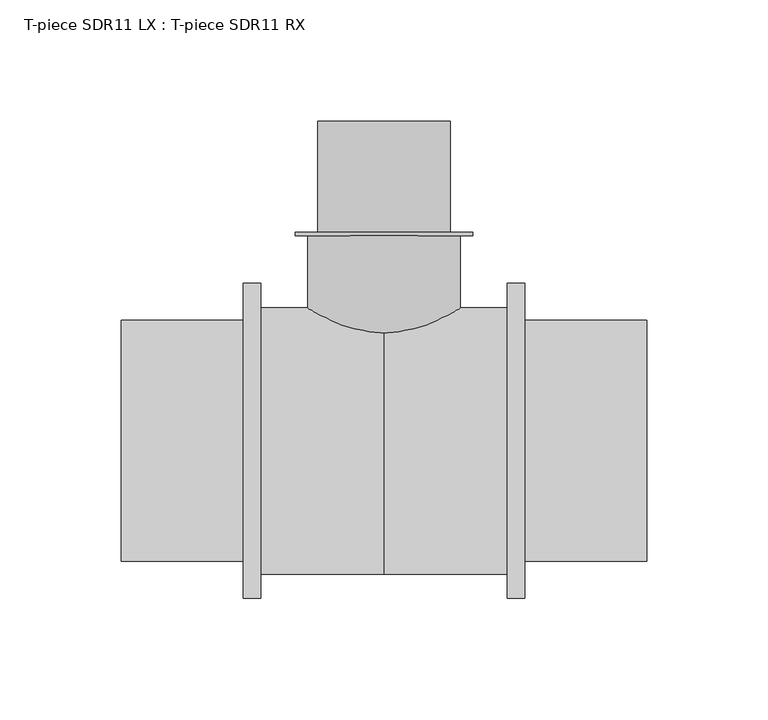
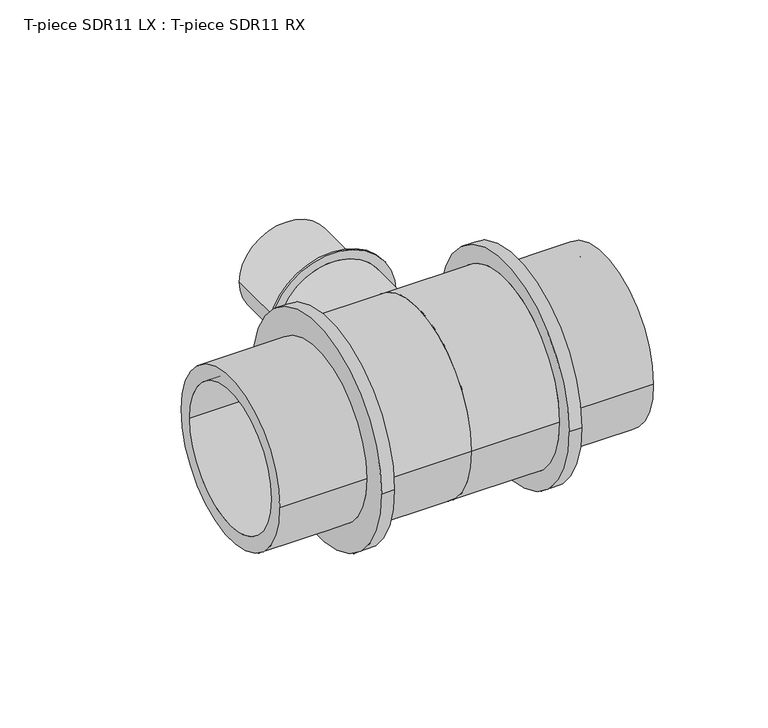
"""IFC4 building model written with IfcOpenShell, lengths in millimetres: pipe fitting geometry, T-piece SDR11 LX : T-piece SDR11 RX."""

from ifc_helpers import new_model, si_unit, point, frame, origin, place, context, project, spatial, polyline, circle_curve, ellipse_curve, trimmed, source, transform, mapped, element, save
from ifc_brep_helpers import plane_surface, cylinder_surface, revolved_surface, advanced_brep


def t_piece_sdr11_lx_t_piece_sdr11_rx_f182f6ed(model_context):
    return source(origin(), model_context, "Body", "AdvancedBrep", [
        advanced_brep(
        [(31.5, 1.6732662, 0.0), (-31.5, 1.6732662, 0.0), (-31.5, 84.8, 0.0), (31.5, 84.8, 0.0), (22.0, 132.0, 0.0), (-22.0, 132.0, 0.0), (-22.0, 0.0, 0.0), (22.0, 0.0, 0.0), (27.3, 86.1, 0.0), (-27.3, 86.1, 0.0), (-27.3, 132.0, 0.0), (27.3, 132.0, 0.0), (36.7, 84.8, 0.0), (-36.7, 84.8, 0.0), (-36.7, 86.1, 0.0), (36.7, 86.1, 0.0)],
        [
            (0, 1, circle_curve(frame((0.0, 1.6732662, 0.0), z_axis=(0.0, 1.0, 0.0), x_axis=(-1.0, 0.0, 0.0)), 31.5)),
            (1, 2),
            (2, 3, circle_curve(frame((0.0, 84.8, 0.0), z_axis=(0.0, -1.0, 0.0), x_axis=(-1.0, 0.0, 0.0)), 31.5)),
            (3, 0),
            (4, 5, circle_curve(frame((0.0, 132.0, 0.0), z_axis=(0.0, 1.0, 0.0), x_axis=(-1.0, 0.0, 0.0)), 22.0)),
            (5, 6),
            (6, 7, circle_curve(frame((0.0, 0.0, 0.0), z_axis=(0.0, -1.0, 0.0), x_axis=(-1.0, 0.0, 0.0)), 22.0)),
            (7, 4),
            (8, 9, circle_curve(frame((0.0, 86.1, 0.0), z_axis=(0.0, 1.0, 0.0), x_axis=(-1.0, 0.0, 0.0)), 27.3)),
            (9, 10),
            (10, 11, circle_curve(frame((0.0, 132.0, 0.0), z_axis=(0.0, -1.0, 0.0), x_axis=(-1.0, 0.0, 0.0)), 27.3)),
            (11, 8),
            (12, 13, circle_curve(frame((0.0, 84.8, 0.0), z_axis=(0.0, 1.0, 0.0), x_axis=(-1.0, 0.0, 0.0)), 36.7)),
            (13, 14),
            (14, 15, circle_curve(frame((0.0, 86.1, 0.0), z_axis=(0.0, -1.0, 0.0), x_axis=(-1.0, 0.0, 0.0)), 36.7)),
            (15, 12),
            (12, 13, circle_curve(frame((0.0, 84.8, 0.0), z_axis=(0.0, -1.0, 0.0), x_axis=(1.0, 0.0, 0.0)), 36.7)),
            (2, 3, circle_curve(frame((0.0, 84.8, 0.0), z_axis=(0.0, 1.0, 0.0), x_axis=(1.0, 0.0, 0.0)), 31.5)),
            (1, 0, circle_curve(frame((0.0, 1.6732662, 0.0), z_axis=(0.0, 1.0, 0.0), x_axis=(1.0, 0.0, 0.0)), 31.5)),
            (5, 4, circle_curve(frame((0.0, 132.0, 0.0), z_axis=(0.0, 1.0, 0.0), x_axis=(1.0, 0.0, 0.0)), 22.0)),
            (7, 6, circle_curve(frame((0.0, 0.0, 0.0), z_axis=(0.0, -1.0, 0.0), x_axis=(1.0, 0.0, 0.0)), 22.0)),
            (10, 11, circle_curve(frame((0.0, 132.0, 0.0), z_axis=(0.0, 1.0, 0.0), x_axis=(1.0, 0.0, 0.0)), 27.3)),
            (9, 8, circle_curve(frame((0.0, 86.1, 0.0), z_axis=(0.0, 1.0, 0.0), x_axis=(1.0, 0.0, 0.0)), 27.3)),
            (14, 15, circle_curve(frame((0.0, 86.1, 0.0), z_axis=(0.0, 1.0, 0.0), x_axis=(1.0, 0.0, 0.0)), 36.7)),
            (6, 1, circle_curve(frame((-17.2462802, 54.7941799, 0.0), z_axis=(0.0, 0.0, -1.0), x_axis=(0.0, -1.0, 0.0)), 55.0)),
            (0, 7, circle_curve(frame((17.2462802, 54.7941799, 0.0), z_axis=(0.0, 0.0, -1.0), x_axis=(0.0, -1.0, 0.0)), 55.0)),
        ],
        [
            cylinder_surface(frame((0.0, 0.0, 0.0), z_axis=(0.0, -1.0, 0.0), x_axis=(-1.0, 0.0, 0.0)), 31.5),
            revolved_surface(polyline([(-22.0, 0.0, 0.0), (-22.0, 132.0, 0.0)]), (0.0, 0.0, 0.0), (0.0, -1.0, 0.0)),
            cylinder_surface(frame((0.0, 0.0, 0.0), z_axis=(0.0, -1.0, 0.0), x_axis=(-1.0, 0.0, 0.0)), 27.3),
            cylinder_surface(frame((0.0, 0.0, 0.0), z_axis=(0.0, -1.0, 0.0), x_axis=(-1.0, 0.0, 0.0)), 36.7),
            plane_surface(frame((0.0, 84.8, 0.0), z_axis=(0.0, -1.0, 0.0), x_axis=(1.0, 0.0, 0.0))),
            cylinder_surface(frame((0.0, 0.0, 0.0), z_axis=(0.0, -1.0, 0.0), x_axis=(1.0, 0.0, 0.0)), 31.5),
            revolved_surface(polyline([(22.0, 0.0, 0.0), (22.0, 132.0, 0.0)]), (0.0, 0.0, 0.0), (0.0, -1.0, 0.0)),
            plane_surface(frame((0.0, 132.0, 0.0), z_axis=(0.0, 1.0, 0.0), x_axis=(1.0, 0.0, 0.0))),
            cylinder_surface(frame((0.0, 0.0, 0.0), z_axis=(0.0, -1.0, 0.0), x_axis=(1.0, 0.0, 0.0)), 27.3),
            plane_surface(frame((0.0, 86.1, 0.0), z_axis=(0.0, 1.0, 0.0), x_axis=(1.0, 0.0, 0.0))),
            cylinder_surface(frame((0.0, 0.0, 0.0), z_axis=(0.0, -1.0, 0.0), x_axis=(1.0, 0.0, 0.0)), 36.7),
            revolved_surface(trimmed(ellipse_curve(frame((-17.2462802, 54.7941799, 0.0), z_axis=(0.0, 0.0, 1.0), x_axis=(0.0, -1.0, 0.0)), 55.0, 55.0), [point((-31.5, 1.6732662, 0.0))], [point((-22.0, 0.0, 0.0))], True, "CARTESIAN"), (0.0, 0.0, 0.0), (0.0, -1.0, 0.0)),
            revolved_surface(trimmed(ellipse_curve(frame((17.2462802, 54.7941799, 0.0), z_axis=(0.0, 0.0, -1.0), x_axis=(0.0, -1.0, 0.0)), 55.0, 55.0), [point((31.5, 1.6732662, 0.0))], [point((22.0, 0.0, 0.0))], True, "CARTESIAN"), (0.0, 0.0, 0.0), (0.0, -1.0, 0.0)),
        ],
        [
            (0, [[1, 2, 3, 4]]),
            (1, [[5, 6, 7, 8]]),
            (2, [[9, 10, 11, 12]]),
            (3, [[13, 14, 15, 16]]),
            (4, [[17, -13], [18, -3]]),
            (5, [[19, -4, -18, -2]]),
            (6, [[20, -8, 21, -6]]),
            (7, [[22, -11], [-20, -5]]),
            (8, [[23, -12, -22, -10]]),
            (9, [[24, -15], [-23, -9]]),
            (10, [[-17, -16, -24, -14]]),
            (11, [[-7, 25, -1, 26]]),
            (12, [[-21, -26, -19, -25]]),
        ],
    ),
        advanced_brep(
        [(50.8, 55.0, 0.0), (50.8, -55.0, 0.0), (0.0, -55.0, 0.0), (0.0, 55.0, 0.0), (0.0, 41.1, 0.0), (0.0, -41.1, 0.0), (108.5, -41.1, 0.0), (108.5, 41.1, 0.0), (108.5, 49.75, 0.0), (108.5, -49.75, 0.0), (58.1, -49.75, 0.0), (58.1, 49.75, 0.0), (58.1, 65.0, 0.0), (58.1, -65.0, 0.0), (50.8, -65.0, 0.0), (50.8, 65.0, 0.0)],
        [
            (0, 1, circle_curve(frame((50.8, 0.0, 0.0), z_axis=(-1.0, 0.0, 0.0), x_axis=(0.0, -1.0, 0.0)), 55.0)),
            (1, 2),
            (2, 3, circle_curve(frame((0.0, 0.0, 0.0), z_axis=(1.0, 0.0, 0.0), x_axis=(0.0, -1.0, 0.0)), 55.0)),
            (3, 0),
            (4, 5, circle_curve(frame((0.0, 0.0, 0.0), z_axis=(-1.0, 0.0, 0.0), x_axis=(0.0, -1.0, 0.0)), 41.1)),
            (5, 6),
            (6, 7, circle_curve(frame((108.5, 0.0, 0.0), z_axis=(1.0, 0.0, 0.0), x_axis=(0.0, -1.0, 0.0)), 41.1)),
            (7, 4),
            (8, 9, circle_curve(frame((108.5, 0.0, 0.0), z_axis=(-1.0, 0.0, 0.0), x_axis=(0.0, -1.0, 0.0)), 49.75)),
            (9, 10),
            (10, 11, circle_curve(frame((58.1, 0.0, 0.0), z_axis=(1.0, 0.0, 0.0), x_axis=(0.0, -1.0, 0.0)), 49.75)),
            (11, 8),
            (12, 13, circle_curve(frame((58.1, 0.0, 0.0), z_axis=(-1.0, 0.0, 0.0), x_axis=(0.0, -1.0, 0.0)), 65.0)),
            (13, 14),
            (14, 15, circle_curve(frame((50.8, 0.0, 0.0), z_axis=(1.0, 0.0, 0.0), x_axis=(0.0, -1.0, 0.0)), 65.0)),
            (15, 12),
            (14, 15, circle_curve(frame((50.8, 0.0, 0.0), z_axis=(-1.0, 0.0, 0.0), x_axis=(0.0, 1.0, 0.0)), 65.0)),
            (0, 1, circle_curve(frame((50.8, 0.0, 0.0), z_axis=(1.0, 0.0, 0.0), x_axis=(0.0, 1.0, 0.0)), 55.0)),
            (3, 2, circle_curve(frame((0.0, 0.0, 0.0), z_axis=(1.0, 0.0, 0.0), x_axis=(0.0, 1.0, 0.0)), 55.0)),
            (4, 5, circle_curve(frame((0.0, 0.0, 0.0), z_axis=(1.0, 0.0, 0.0), x_axis=(0.0, 1.0, 0.0)), 41.1)),
            (7, 6, circle_curve(frame((108.5, 0.0, 0.0), z_axis=(1.0, 0.0, 0.0), x_axis=(0.0, 1.0, 0.0)), 41.1)),
            (8, 9, circle_curve(frame((108.5, 0.0, 0.0), z_axis=(1.0, 0.0, 0.0), x_axis=(0.0, 1.0, 0.0)), 49.75)),
            (11, 10, circle_curve(frame((58.1, 0.0, 0.0), z_axis=(1.0, 0.0, 0.0), x_axis=(0.0, 1.0, 0.0)), 49.75)),
            (12, 13, circle_curve(frame((58.1, 0.0, 0.0), z_axis=(1.0, 0.0, 0.0), x_axis=(0.0, 1.0, 0.0)), 65.0)),
        ],
        [
            cylinder_surface(frame((0.0, 0.0, 0.0), z_axis=(1.0, 0.0, 0.0), x_axis=(0.0, -1.0, 0.0)), 55.0),
            revolved_surface(polyline([(108.5, -41.1, 0.0), (0.0, -41.1, 0.0)]), (0.0, 0.0, 0.0), (1.0, 0.0, 0.0)),
            cylinder_surface(frame((0.0, 0.0, 0.0), z_axis=(1.0, 0.0, 0.0), x_axis=(0.0, -1.0, 0.0)), 49.75),
            cylinder_surface(frame((0.0, 0.0, 0.0), z_axis=(1.0, 0.0, 0.0), x_axis=(0.0, -1.0, 0.0)), 65.0),
            plane_surface(frame((50.8, 0.0, 0.0), z_axis=(-1.0, 0.0, 0.0), x_axis=(0.0, 1.0, 0.0))),
            cylinder_surface(frame((0.0, 0.0, 0.0), z_axis=(1.0, 0.0, 0.0), x_axis=(0.0, 1.0, 0.0)), 55.0),
            plane_surface(frame((0.0, 0.0, 0.0), z_axis=(-1.0, 0.0, 0.0), x_axis=(0.0, 1.0, 0.0))),
            revolved_surface(polyline([(108.5, 41.1, 0.0), (0.0, 41.1, 0.0)]), (0.0, 0.0, 0.0), (1.0, 0.0, 0.0)),
            plane_surface(frame((108.5, 0.0, 0.0), z_axis=(1.0, 0.0, 0.0), x_axis=(0.0, 1.0, 0.0))),
            cylinder_surface(frame((0.0, 0.0, 0.0), z_axis=(1.0, 0.0, 0.0), x_axis=(0.0, 1.0, 0.0)), 49.75),
            plane_surface(frame((58.1, 0.0, 0.0), z_axis=(1.0, 0.0, 0.0), x_axis=(0.0, 1.0, 0.0))),
            cylinder_surface(frame((0.0, 0.0, 0.0), z_axis=(1.0, 0.0, 0.0), x_axis=(0.0, 1.0, 0.0)), 65.0),
        ],
        [
            (0, [[1, 2, 3, 4]]),
            (1, [[5, 6, 7, 8]]),
            (2, [[9, 10, 11, 12]]),
            (3, [[13, 14, 15, 16]]),
            (4, [[17, -15], [18, -1]]),
            (5, [[-18, -4, 19, -2]]),
            (6, [[-19, -3], [20, -5]]),
            (7, [[-20, -8, 21, -6]]),
            (8, [[22, -9], [-21, -7]]),
            (9, [[-22, -12, 23, -10]]),
            (10, [[24, -13], [-23, -11]]),
            (11, [[-24, -16, -17, -14]]),
        ],
    ),
        advanced_brep(
        [(0.0, 55.0, 0.0), (0.0, -55.0, 0.0), (-50.8, -55.0, 0.0), (-50.8, 55.0, 0.0), (-108.5, 41.1, 0.0), (-108.5, -41.1, 0.0), (0.0, -41.1, 0.0), (0.0, 41.1, 0.0), (-58.1, 49.75, 0.0), (-58.1, -49.75, 0.0), (-108.5, -49.75, 0.0), (-108.5, 49.75, 0.0), (-50.8, 65.0, 0.0), (-50.8, -65.0, 0.0), (-58.1, -65.0, 0.0), (-58.1, 65.0, 0.0)],
        [
            (0, 1, circle_curve(frame((0.0, 0.0, 0.0), z_axis=(-1.0, 0.0, 0.0), x_axis=(0.0, -1.0, 0.0)), 55.0)),
            (1, 2),
            (2, 3, circle_curve(frame((-50.8, 0.0, 0.0), z_axis=(1.0, 0.0, 0.0), x_axis=(0.0, -1.0, 0.0)), 55.0)),
            (3, 0),
            (4, 5, circle_curve(frame((-108.5, 0.0, 0.0), z_axis=(-1.0, 0.0, 0.0), x_axis=(0.0, -1.0, 0.0)), 41.1)),
            (5, 6),
            (6, 7, circle_curve(frame((0.0, 0.0, 0.0), z_axis=(1.0, 0.0, 0.0), x_axis=(0.0, -1.0, 0.0)), 41.1)),
            (7, 4),
            (8, 9, circle_curve(frame((-58.1, 0.0, 0.0), z_axis=(-1.0, 0.0, 0.0), x_axis=(0.0, -1.0, 0.0)), 49.75)),
            (9, 10),
            (10, 11, circle_curve(frame((-108.5, 0.0, 0.0), z_axis=(1.0, 0.0, 0.0), x_axis=(0.0, -1.0, 0.0)), 49.75)),
            (11, 8),
            (12, 13, circle_curve(frame((-50.8, 0.0, 0.0), z_axis=(-1.0, 0.0, 0.0), x_axis=(0.0, -1.0, 0.0)), 65.0)),
            (13, 14),
            (14, 15, circle_curve(frame((-58.1, 0.0, 0.0), z_axis=(1.0, 0.0, 0.0), x_axis=(0.0, -1.0, 0.0)), 65.0)),
            (15, 12),
            (12, 13, circle_curve(frame((-50.8, 0.0, 0.0), z_axis=(1.0, 0.0, 0.0), x_axis=(0.0, 1.0, 0.0)), 65.0)),
            (2, 3, circle_curve(frame((-50.8, 0.0, 0.0), z_axis=(-1.0, 0.0, 0.0), x_axis=(0.0, 1.0, 0.0)), 55.0)),
            (1, 0, circle_curve(frame((0.0, 0.0, 0.0), z_axis=(-1.0, 0.0, 0.0), x_axis=(0.0, 1.0, 0.0)), 55.0)),
            (6, 7, circle_curve(frame((0.0, 0.0, 0.0), z_axis=(-1.0, 0.0, 0.0), x_axis=(0.0, 1.0, 0.0)), 41.1)),
            (5, 4, circle_curve(frame((-108.5, 0.0, 0.0), z_axis=(-1.0, 0.0, 0.0), x_axis=(0.0, 1.0, 0.0)), 41.1)),
            (10, 11, circle_curve(frame((-108.5, 0.0, 0.0), z_axis=(-1.0, 0.0, 0.0), x_axis=(0.0, 1.0, 0.0)), 49.75)),
            (9, 8, circle_curve(frame((-58.1, 0.0, 0.0), z_axis=(-1.0, 0.0, 0.0), x_axis=(0.0, 1.0, 0.0)), 49.75)),
            (14, 15, circle_curve(frame((-58.1, 0.0, 0.0), z_axis=(-1.0, 0.0, 0.0), x_axis=(0.0, 1.0, 0.0)), 65.0)),
        ],
        [
            cylinder_surface(frame((0.0, 0.0, 0.0), z_axis=(1.0, 0.0, 0.0), x_axis=(0.0, -1.0, 0.0)), 55.0),
            revolved_surface(polyline([(0.0, -41.1, 0.0), (-108.5, -41.1, 0.0)]), (0.0, 0.0, 0.0), (1.0, 0.0, 0.0)),
            cylinder_surface(frame((0.0, 0.0, 0.0), z_axis=(1.0, 0.0, 0.0), x_axis=(0.0, -1.0, 0.0)), 49.75),
            cylinder_surface(frame((0.0, 0.0, 0.0), z_axis=(1.0, 0.0, 0.0), x_axis=(0.0, -1.0, 0.0)), 65.0),
            plane_surface(frame((-50.8, 0.0, 0.0), z_axis=(1.0, 0.0, 0.0), x_axis=(0.0, 1.0, 0.0))),
            cylinder_surface(frame((0.0, 0.0, 0.0), z_axis=(1.0, 0.0, 0.0), x_axis=(0.0, 1.0, 0.0)), 55.0),
            plane_surface(frame((0.0, 0.0, 0.0), z_axis=(1.0, 0.0, 0.0), x_axis=(0.0, 1.0, 0.0))),
            revolved_surface(polyline([(0.0, 41.1, 0.0), (-108.5, 41.1, 0.0)]), (0.0, 0.0, 0.0), (1.0, 0.0, 0.0)),
            plane_surface(frame((-108.5, 0.0, 0.0), z_axis=(-1.0, 0.0, 0.0), x_axis=(0.0, 1.0, 0.0))),
            cylinder_surface(frame((0.0, 0.0, 0.0), z_axis=(1.0, 0.0, 0.0), x_axis=(0.0, 1.0, 0.0)), 49.75),
            plane_surface(frame((-58.1, 0.0, 0.0), z_axis=(-1.0, 0.0, 0.0), x_axis=(0.0, 1.0, 0.0))),
            cylinder_surface(frame((0.0, 0.0, 0.0), z_axis=(1.0, 0.0, 0.0), x_axis=(0.0, 1.0, 0.0)), 65.0),
        ],
        [
            (0, [[1, 2, 3, 4]]),
            (1, [[5, 6, 7, 8]]),
            (2, [[9, 10, 11, 12]]),
            (3, [[13, 14, 15, 16]]),
            (4, [[17, -13], [18, -3]]),
            (5, [[19, -4, -18, -2]]),
            (6, [[-19, -1], [20, -7]]),
            (7, [[21, -8, -20, -6]]),
            (8, [[22, -11], [-21, -5]]),
            (9, [[23, -12, -22, -10]]),
            (10, [[24, -15], [-23, -9]]),
            (11, [[-17, -16, -24, -14]]),
        ],
    ),
    ])


if __name__ == "__main__":
    model = new_model("IFC4")
    model_context = context("Model", 3, world=origin())
    ifc_project = project(units=[si_unit("LENGTHUNIT", "METRE", prefix="MILLI")], contexts=[model_context])
    site = spatial("IfcSite", under=ifc_project)
    building = spatial("IfcBuilding", under=site)
    placement = place(None, origin())
    t_piece_sdr11_lx_t_piece_sdr11_rx_shape = t_piece_sdr11_lx_t_piece_sdr11_rx_f182f6ed(model_context)
    element("IfcPipeFitting", 1, ObjectType="T-piece SDR11 LX : T-piece SDR11 RX", at=placement, inside=building, context=model_context, shape_type="MappedRepresentation", body=[
        mapped(t_piece_sdr11_lx_t_piece_sdr11_rx_shape, transform((0.0, 0.0, 0.0), x_axis=(1.0, 0.0, 0.0), y_axis=(0.0, 1.0, 0.0), z_axis=(0.0, 0.0, 1.0))),
    ])
    save(model, "model.ifc")
